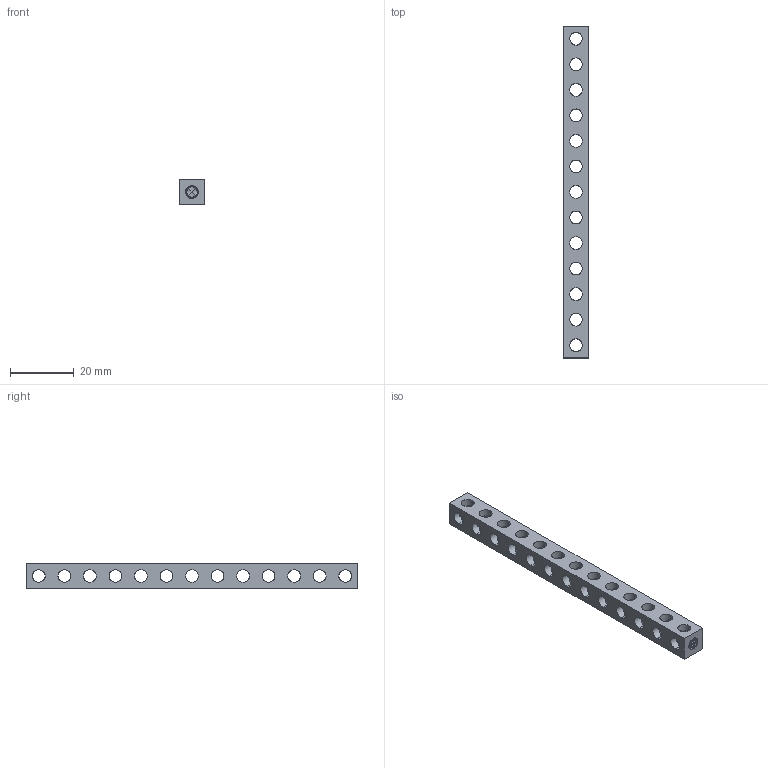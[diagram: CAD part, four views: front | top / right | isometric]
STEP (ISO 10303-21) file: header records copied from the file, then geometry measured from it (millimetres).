
FILE_DESCRIPTION (( 'STEP AP203' ), '1' );
FILE_NAME ('1106-0013-0104.STEP', '2017-09-08T14:45:25', ( '' ), ( '' ), 'SwSTEP 2.0', 'SolidWorks 2016', '' );
FILE_SCHEMA (( 'CONFIG_CONTROL_DESIGN' ));
Products named in the file (1): 1106-0013-0104
Bounding box: 8 x 104 x 8 mm (x, y, z)
Volume: 4469.2 mm3; surface area: 4727.9 mm2
Topology: 1 solids, 1 shells, 262 faces, 800 edges, 508 vertices
Faces by surface type: cylinder 212, bspline 38, cone 6, plane 6
Entity records: 50943 total; most frequent: CARTESIAN_POINT 44997, ORIENTED_EDGE 1600, DIRECTION 870, EDGE_CURVE 800, VERTEX_POINT 508, AXIS2_PLACEMENT_3D 339, EDGE_LOOP 316, FACE_OUTER_BOUND 262
